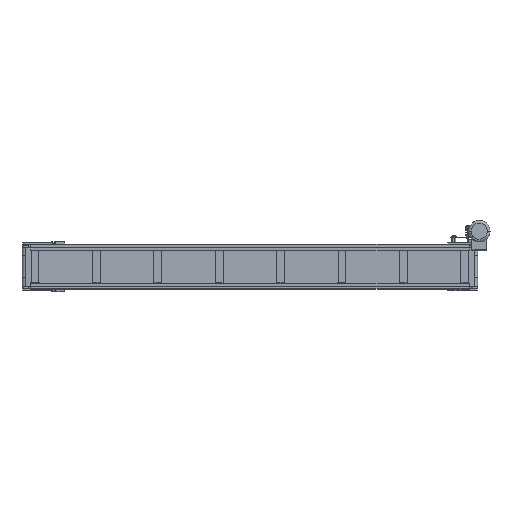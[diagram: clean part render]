
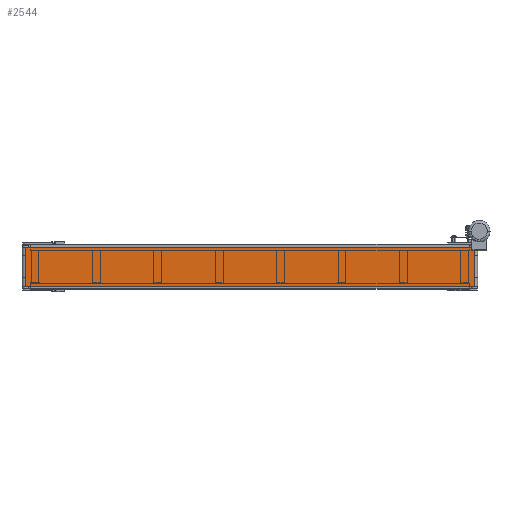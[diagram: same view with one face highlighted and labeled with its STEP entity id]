
A CAD part, front view. The second image highlights one B-rep face of the part: STEP entity #2544.
In plain terms, the highlighted planar face has unit normal (0, -1, 0).
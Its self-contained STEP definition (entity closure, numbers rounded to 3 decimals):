
#1888 = DIRECTION ( 'NONE',  ( 0., 0., -1. ) ) ;
#2544 = ADVANCED_FACE ( 'NONE', ( #26537 ), #6911, .F. ) ;
#5055 = LINE ( 'NONE', #9620, #41655 ) ;
#5082 = VERTEX_POINT ( 'NONE', #42428 ) ;
#6651 = CARTESIAN_POINT ( 'NONE',  ( -1150., -17., 100. ) ) ;
#6911 = PLANE ( 'NONE',  #24957 ) ;
#7658 = ORIENTED_EDGE ( 'NONE', *, *, #46630, .T. ) ;
#8119 = VECTOR ( 'NONE', #26204, 1000. ) ;
#9620 = CARTESIAN_POINT ( 'NONE',  ( 1150., -17., 100. ) ) ;
#9747 = CARTESIAN_POINT ( 'NONE',  ( 1150., -17., 100. ) ) ;
#13614 = DIRECTION ( 'NONE',  ( 0., 0., -1. ) ) ;
#13948 = LINE ( 'NONE', #38634, #50957 ) ;
#16044 = ORIENTED_EDGE ( 'NONE', *, *, #33159, .T. ) ;
#21128 = CARTESIAN_POINT ( 'NONE',  ( -1150., -17., 100. ) ) ;
#21533 = ORIENTED_EDGE ( 'NONE', *, *, #30528, .F. ) ;
#21865 = CARTESIAN_POINT ( 'NONE',  ( -1150., -17., -100. ) ) ;
#22119 = DIRECTION ( 'NONE',  ( 1., 0., 0. ) ) ;
#22228 = CARTESIAN_POINT ( 'NONE',  ( 1150., -17., -100. ) ) ;
#23043 = DIRECTION ( 'NONE',  ( 0., 0., 1. ) ) ;
#24957 = AXIS2_PLACEMENT_3D ( 'NONE', #6651, #42855, #23043 ) ;
#26204 = DIRECTION ( 'NONE',  ( 1., 0., 0. ) ) ;
#26537 = FACE_OUTER_BOUND ( 'NONE', #32771, .T. ) ;
#27117 = VERTEX_POINT ( 'NONE', #22228 ) ;
#29180 = EDGE_CURVE ( 'NONE', #48794, #30985, #38500, .T. ) ;
#30528 = EDGE_CURVE ( 'NONE', #30985, #27117, #5055, .T. ) ;
#30670 = VECTOR ( 'NONE', #22119, 1000. ) ;
#30985 = VERTEX_POINT ( 'NONE', #9747 ) ;
#32771 = EDGE_LOOP ( 'NONE', ( #16044, #21533, #43600, #7658 ) ) ;
#33159 = EDGE_CURVE ( 'NONE', #5082, #27117, #46240, .T. ) ;
#38500 = LINE ( 'NONE', #42272, #8119 ) ;
#38634 = CARTESIAN_POINT ( 'NONE',  ( -1150., -17., 100. ) ) ;
#41655 = VECTOR ( 'NONE', #13614, 1000. ) ;
#42272 = CARTESIAN_POINT ( 'NONE',  ( -1150., -17., 100. ) ) ;
#42428 = CARTESIAN_POINT ( 'NONE',  ( -1150., -17., -100. ) ) ;
#42855 = DIRECTION ( 'NONE',  ( 0., 1., 0. ) ) ;
#43600 = ORIENTED_EDGE ( 'NONE', *, *, #29180, .F. ) ;
#46240 = LINE ( 'NONE', #21865, #30670 ) ;
#46630 = EDGE_CURVE ( 'NONE', #48794, #5082, #13948, .T. ) ;
#48794 = VERTEX_POINT ( 'NONE', #21128 ) ;
#50957 = VECTOR ( 'NONE', #1888, 1000. ) ;
